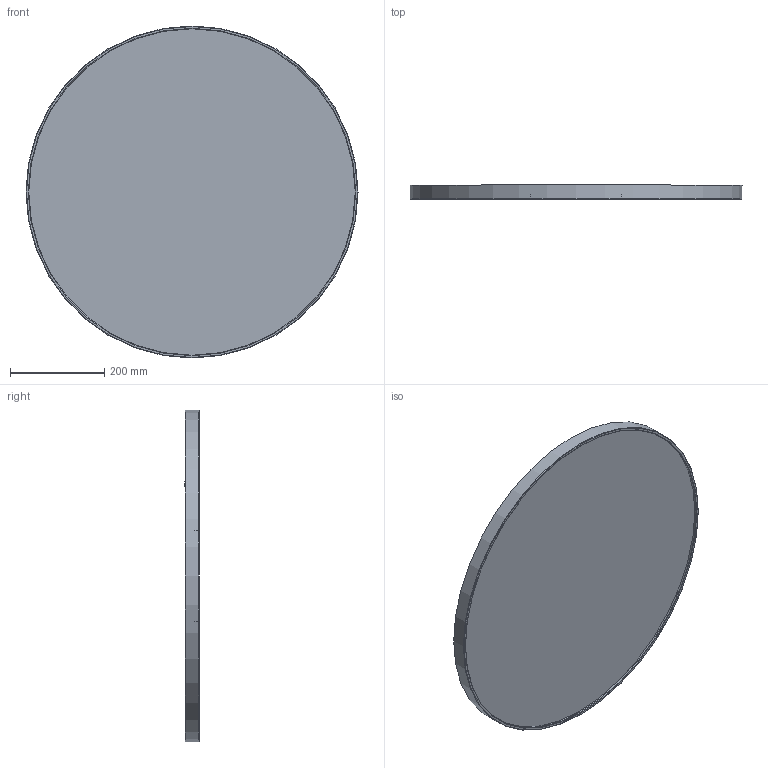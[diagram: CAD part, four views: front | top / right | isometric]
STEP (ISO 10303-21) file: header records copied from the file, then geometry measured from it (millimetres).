
FILE_DESCRIPTION(/* description */ ('Unknown'),/* implementation_level */ '2;1');
FILE_NAME(/* name */ 'Soft',/* time_stamp */ '2026-04-08T14:23:22+02:00',/* author */ ('Mariusz Kirko'),/* organization */ ('Kraft'),/* preprocessor_version */ 'ST-DEVELOPER v19.4',/* originating_system */ 'Solid Edge',/* authorisation */ 'Unknown');
FILE_SCHEMA (('AUTOMOTIVE_DESIGN {1 0 10303 214 3 1 1}'));
Length unit declared in the file: millimetre
Products named in the file (4): Z這瞠nie plus zawieszka; Ramka; Lustro; 350x21
Assembly tree (3 placements, depth 2):
  Z這瞠nie plus zawieszka
    Ramka
    Lustro
    350x21
Bounding box: 706 x 31.5 x 706 mm (x, y, z)
Volume: 1799311.4 mm3; surface area: 996141 mm2
Topology: 3 solids, 3 shells, 85 faces, 234 edges, 156 vertices
Faces by surface type: plane 47, cylinder 36, torus 2
Full cylindrical faces by diameter (mm): 694 x1, 700 x2, 706 x1
Entity records: 2843 total; most frequent: DIRECTION 478, CARTESIAN_POINT 469, ORIENTED_EDGE 452, EDGE_CURVE 226, AXIS2_PLACEMENT_3D 163, VERTEX_POINT 154, LINE 152, VECTOR 152
